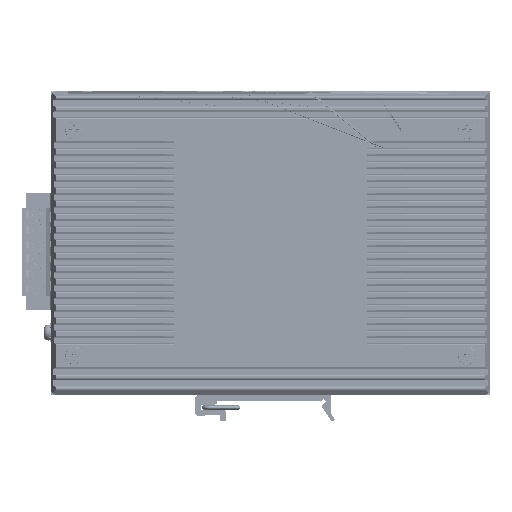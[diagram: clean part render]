
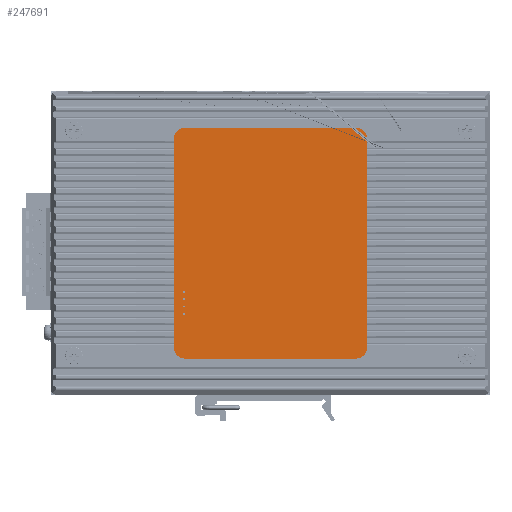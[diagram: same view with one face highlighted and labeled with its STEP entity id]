
A CAD part, left-side view. The second image highlights one B-rep face of the part: STEP entity #247691.
In plain terms, the highlighted planar face has unit normal (-1, 0, 0) as drawn and (0, 1, 0) by its records, which use the part's own axes.
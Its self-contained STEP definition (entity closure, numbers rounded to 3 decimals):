
#5030 = EDGE_CURVE ( 'NONE', #185102, #88207, #137949, .T. ) ;
#11626 = CARTESIAN_POINT ( 'NONE',  ( 42.5, 3., -88.5 ) ) ;
#27316 = CARTESIAN_POINT ( 'NONE',  ( 46.5, 3., -88.5 ) ) ;
#34340 = CIRCLE ( 'NONE', #130523, 4. ) ;
#48619 = VECTOR ( 'NONE', #543519, 1000. ) ;
#57254 = ORIENTED_EDGE ( 'NONE', *, *, #231550, .T. ) ;
#66401 = DIRECTION ( 'NONE',  ( 0., 1., 0. ) ) ;
#70145 = DIRECTION ( 'NONE',  ( 0., 0., 1. ) ) ;
#71041 = ORIENTED_EDGE ( 'NONE', *, *, #89071, .T. ) ;
#71049 = EDGE_CURVE ( 'NONE', #265637, #291618, #34340, .T. ) ;
#88207 = VERTEX_POINT ( 'NONE', #163487 ) ;
#89071 = EDGE_CURVE ( 'NONE', #291618, #413148, #248996, .T. ) ;
#101158 = DIRECTION ( 'NONE',  ( 0., -1., 0. ) ) ;
#106451 = AXIS2_PLACEMENT_3D ( 'NONE', #471339, #215863, #514277 ) ;
#112314 = CARTESIAN_POINT ( 'NONE',  ( 105.5, 3., -12.5 ) ) ;
#122370 = LINE ( 'NONE', #310926, #222228 ) ;
#129760 = ORIENTED_EDGE ( 'NONE', *, *, #140658, .T. ) ;
#130523 = AXIS2_PLACEMENT_3D ( 'NONE', #321540, #66401, #364392 ) ;
#137949 = CIRCLE ( 'NONE', #519414, 4. ) ;
#140658 = EDGE_CURVE ( 'NONE', #413148, #352173, #179957, .T. ) ;
#149880 = CARTESIAN_POINT ( 'NONE',  ( 46.5, 3., -12.5 ) ) ;
#152592 = ORIENTED_EDGE ( 'NONE', *, *, #5030, .T. ) ;
#163487 = CARTESIAN_POINT ( 'NONE',  ( 105.5, 3., -92.5 ) ) ;
#166651 = CIRCLE ( 'NONE', #427027, 4. ) ;
#167364 = CARTESIAN_POINT ( 'NONE',  ( 105.5, 3., -12.5 ) ) ;
#179957 = CIRCLE ( 'NONE', #106451, 4. ) ;
#185102 = VERTEX_POINT ( 'NONE', #545133 ) ;
#187364 = FACE_OUTER_BOUND ( 'NONE', #462791, .T. ) ;
#197932 = DIRECTION ( 'NONE',  ( 1., 0., 0. ) ) ;
#201868 = CARTESIAN_POINT ( 'NONE',  ( 105.5, 3., -88.5 ) ) ;
#213082 = EDGE_CURVE ( 'NONE', #352173, #185102, #432959, .T. ) ;
#215863 = DIRECTION ( 'NONE',  ( 0., 1., 0. ) ) ;
#222228 = VECTOR ( 'NONE', #353785, 1000. ) ;
#231550 = EDGE_CURVE ( 'NONE', #88207, #481886, #122370, .T. ) ;
#232983 = ORIENTED_EDGE ( 'NONE', *, *, #213082, .T. ) ;
#235620 = VECTOR ( 'NONE', #197932, 1000. ) ;
#244578 = DIRECTION ( 'NONE',  ( 0., 0., 1. ) ) ;
#247691 = ADVANCED_FACE ( 'NONE', ( #187364 ), #356273, .F. ) ;
#248996 = LINE ( 'NONE', #112314, #235620 ) ;
#254539 = DIRECTION ( 'NONE',  ( 0., 0., -1. ) ) ;
#265637 = VERTEX_POINT ( 'NONE', #428058 ) ;
#270322 = EDGE_CURVE ( 'NONE', #481886, #354188, #166651, .T. ) ;
#288004 = CARTESIAN_POINT ( 'NONE',  ( 42.5, 3., -16.5 ) ) ;
#291618 = VERTEX_POINT ( 'NONE', #149880 ) ;
#310926 = CARTESIAN_POINT ( 'NONE',  ( 105.5, 3., -92.5 ) ) ;
#321540 = CARTESIAN_POINT ( 'NONE',  ( 46.5, 3., -16.5 ) ) ;
#325225 = DIRECTION ( 'NONE',  ( 0., 1., 0. ) ) ;
#346808 = CARTESIAN_POINT ( 'NONE',  ( 109.5, 3., -16.5 ) ) ;
#352173 = VERTEX_POINT ( 'NONE', #346808 ) ;
#353785 = DIRECTION ( 'NONE',  ( -1., 0., 0. ) ) ;
#354188 = VERTEX_POINT ( 'NONE', #11626 ) ;
#356273 = PLANE ( 'NONE',  #519646 ) ;
#364392 = DIRECTION ( 'NONE',  ( 0., 0., -1. ) ) ;
#399101 = DIRECTION ( 'NONE',  ( 0., 0., -1. ) ) ;
#403988 = ORIENTED_EDGE ( 'NONE', *, *, #71049, .T. ) ;
#413148 = VERTEX_POINT ( 'NONE', #167364 ) ;
#414334 = ORIENTED_EDGE ( 'NONE', *, *, #506660, .T. ) ;
#427027 = AXIS2_PLACEMENT_3D ( 'NONE', #27316, #325225, #70145 ) ;
#428058 = CARTESIAN_POINT ( 'NONE',  ( 42.5, 3., -16.5 ) ) ;
#432959 = LINE ( 'NONE', #510081, #533108 ) ;
#448572 = CARTESIAN_POINT ( 'NONE',  ( 46.5, 3., -92.5 ) ) ;
#462791 = EDGE_LOOP ( 'NONE', ( #403988, #71041, #129760, #232983, #152592, #57254, #481701, #414334 ) ) ;
#471339 = CARTESIAN_POINT ( 'NONE',  ( 105.5, 3., -16.5 ) ) ;
#481701 = ORIENTED_EDGE ( 'NONE', *, *, #270322, .T. ) ;
#481886 = VERTEX_POINT ( 'NONE', #448572 ) ;
#488731 = LINE ( 'NONE', #288004, #48619 ) ;
#500189 = DIRECTION ( 'NONE',  ( 0., 1., 0. ) ) ;
#506660 = EDGE_CURVE ( 'NONE', #354188, #265637, #488731, .T. ) ;
#510081 = CARTESIAN_POINT ( 'NONE',  ( 109.5, 3., -16.5 ) ) ;
#514277 = DIRECTION ( 'NONE',  ( 0., 0., 1. ) ) ;
#519414 = AXIS2_PLACEMENT_3D ( 'NONE', #201868, #500189, #244578 ) ;
#519646 = AXIS2_PLACEMENT_3D ( 'NONE', #526046, #101158, #399101 ) ;
#526046 = CARTESIAN_POINT ( 'NONE',  ( 46.5, 3., -16.5 ) ) ;
#533108 = VECTOR ( 'NONE', #254539, 1000. ) ;
#543519 = DIRECTION ( 'NONE',  ( 0., 0., 1. ) ) ;
#545133 = CARTESIAN_POINT ( 'NONE',  ( 109.5, 3., -88.5 ) ) ;
